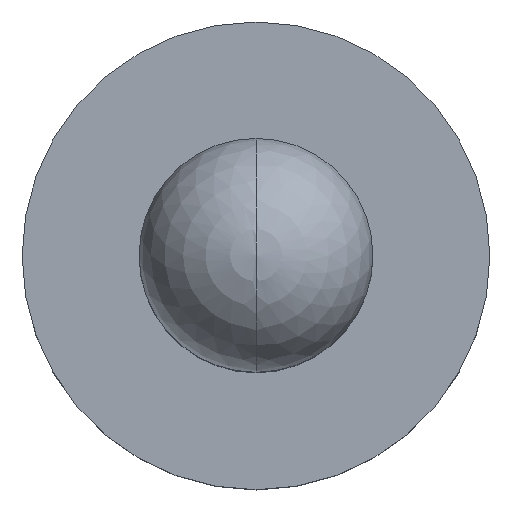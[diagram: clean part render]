
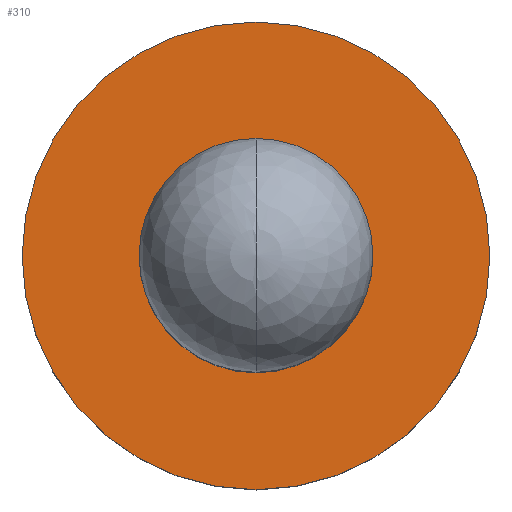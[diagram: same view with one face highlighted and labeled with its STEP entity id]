
A CAD part, top view. The second image highlights one B-rep face of the part: STEP entity #310.
In plain terms, the highlighted planar face has unit normal (0, 0, 1).
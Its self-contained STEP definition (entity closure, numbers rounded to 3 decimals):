
#67=CARTESIAN_POINT('',(0.,0.,-1.551));
#68=DIRECTION('',(0.,0.,1.));
#69=DIRECTION('',(0.,1.,0.));
#70=AXIS2_PLACEMENT_3D('',#67,#68,#69);
#72=CARTESIAN_POINT('',(0.,0.,-1.551));
#73=DIRECTION('',(0.,0.,-1.));
#74=DIRECTION('',(0.,1.,0.));
#75=AXIS2_PLACEMENT_3D('',#72,#73,#74);
#77=CARTESIAN_POINT('',(0.,0.,-1.551));
#78=DIRECTION('',(0.,0.,-1.));
#79=DIRECTION('',(0.,1.,0.));
#80=AXIS2_PLACEMENT_3D('',#77,#78,#79);
#90=CARTESIAN_POINT('',(0.,0.,-1.551));
#91=DIRECTION('',(0.,0.,1.));
#92=DIRECTION('',(0.,1.,0.));
#93=AXIS2_PLACEMENT_3D('',#90,#91,#92);
#160=CARTESIAN_POINT('',(0.,0.9,-1.551));
#162=VERTEX_POINT('',#160);
#163=CARTESIAN_POINT('',(0.,0.45,-1.551));
#165=VERTEX_POINT('',#163);
#182=CARTESIAN_POINT('',(0.,-0.9,-1.551));
#184=VERTEX_POINT('',#182);
#185=CARTESIAN_POINT('',(0.,-0.45,-1.551));
#187=VERTEX_POINT('',#185);
#295=CARTESIAN_POINT('',(0.,0.,-1.551));
#296=DIRECTION('',(0.,0.,-1.));
#297=DIRECTION('',(0.,-1.,0.));
#298=AXIS2_PLACEMENT_3D('',#295,#296,#297);
#299=PLANE('',#298);
#300=ORIENTED_EDGE('',*,*,#288,.F.);
#301=ORIENTED_EDGE('',*,*,#277,.T.);
#302=EDGE_LOOP('',(#300,#301));
#303=FACE_OUTER_BOUND('',#302,.F.);
#305=ORIENTED_EDGE('',*,*,#304,.F.);
#307=ORIENTED_EDGE('',*,*,#306,.T.);
#308=EDGE_LOOP('',(#305,#307));
#309=FACE_BOUND('',#308,.F.);
#310=ADVANCED_FACE('',(#303,#309),#299,.F.);
#71=CIRCLE('',#70,0.9);
#76=CIRCLE('',#75,0.9);
#81=CIRCLE('',#80,0.45);
#94=CIRCLE('',#93,0.45);
#277=EDGE_CURVE('',#162,#184,#76,.T.);
#288=EDGE_CURVE('',#162,#184,#71,.T.);
#304=EDGE_CURVE('',#165,#187,#81,.T.);
#306=EDGE_CURVE('',#165,#187,#94,.T.);
